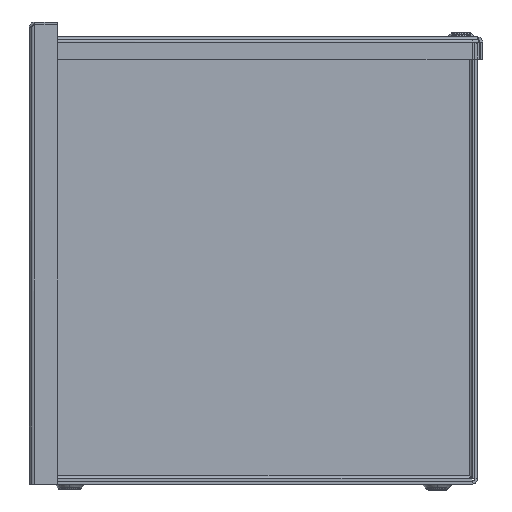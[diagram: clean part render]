
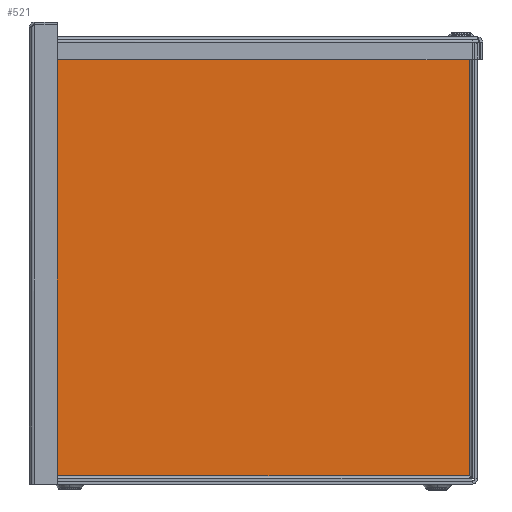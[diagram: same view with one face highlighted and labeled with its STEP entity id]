
A CAD part, left-side view. The second image highlights one B-rep face of the part: STEP entity #521.
In plain terms, the highlighted planar face has unit normal (-1, 0, 0) as drawn and (0, 0, -1) by its records, which use the part's own axes.
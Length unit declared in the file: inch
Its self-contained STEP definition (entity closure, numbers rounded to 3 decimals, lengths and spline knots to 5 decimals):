
#455 = VERTEX_POINT ( 'NONE', #1901 ) ;
#521 = ADVANCED_FACE ( 'NONE', ( #2069 ), #2067, .T. ) ;
#522 = EDGE_LOOP ( 'NONE', ( #523, #527, #530, #557 ) ) ;
#523 = ORIENTED_EDGE ( 'NONE', *, *, #524, .F. ) ;
#524 = EDGE_CURVE ( 'NONE', #525, #526, #2068, .T. ) ;
#525 = VERTEX_POINT ( 'NONE', #2059 ) ;
#526 = VERTEX_POINT ( 'NONE', #2058 ) ;
#527 = ORIENTED_EDGE ( 'NONE', *, *, #528, .F. ) ;
#528 = EDGE_CURVE ( 'NONE', #529, #525, #2057, .T. ) ;
#529 = VERTEX_POINT ( 'NONE', #2119 ) ;
#530 = ORIENTED_EDGE ( 'NONE', *, *, #531, .F. ) ;
#531 = EDGE_CURVE ( 'NONE', #455, #529, #2118, .T. ) ;
#557 = ORIENTED_EDGE ( 'NONE', *, *, #558, .F. ) ;
#558 = EDGE_CURVE ( 'NONE', #526, #455, #2178, .T. ) ;
#1901 = CARTESIAN_POINT ( 'NONE',  ( 5.798, 5.798, 0. ) ) ;
#2054 = DIRECTION ( 'NONE',  ( 0., -1., 0. ) ) ;
#2055 = VECTOR ( 'NONE', #2054, 39.37008 ) ;
#2056 = CARTESIAN_POINT ( 'NONE',  ( -5.798, 5.87093, 0. ) ) ;
#2057 = LINE ( 'NONE', #2056, #2055 ) ;
#2058 = CARTESIAN_POINT ( 'NONE',  ( 5.798, -5.798, 0. ) ) ;
#2059 = CARTESIAN_POINT ( 'NONE',  ( -5.798, -5.798, 0. ) ) ;
#2060 = DIRECTION ( 'NONE',  ( 1., 0., 0. ) ) ;
#2061 = VECTOR ( 'NONE', #2060, 39.37008 ) ;
#2062 = CARTESIAN_POINT ( 'NONE',  ( -5.87093, -5.798, 0. ) ) ;
#2063 = DIRECTION ( 'NONE',  ( -1., 0., 0. ) ) ;
#2064 = DIRECTION ( 'NONE',  ( 0., 0., -1. ) ) ;
#2065 = CARTESIAN_POINT ( 'NONE',  ( -5.95, 5.95, 0. ) ) ;
#2066 = AXIS2_PLACEMENT_3D ( 'NONE', #2065, #2064, #2063 ) ;
#2067 = PLANE ( 'NONE',  #2066 ) ;
#2068 = LINE ( 'NONE', #2062, #2061 ) ;
#2069 = FACE_OUTER_BOUND ( 'NONE', #522, .T. ) ;
#2115 = DIRECTION ( 'NONE',  ( -1., 0., 0. ) ) ;
#2116 = VECTOR ( 'NONE', #2115, 39.37008 ) ;
#2117 = CARTESIAN_POINT ( 'NONE',  ( 5.87093, 5.798, 0. ) ) ;
#2118 = LINE ( 'NONE', #2117, #2116 ) ;
#2119 = CARTESIAN_POINT ( 'NONE',  ( -5.798, 5.798, 0. ) ) ;
#2175 = DIRECTION ( 'NONE',  ( 0., 1., 0. ) ) ;
#2176 = VECTOR ( 'NONE', #2175, 39.37008 ) ;
#2177 = CARTESIAN_POINT ( 'NONE',  ( 5.798, -5.87093, 0. ) ) ;
#2178 = LINE ( 'NONE', #2177, #2176 ) ;
